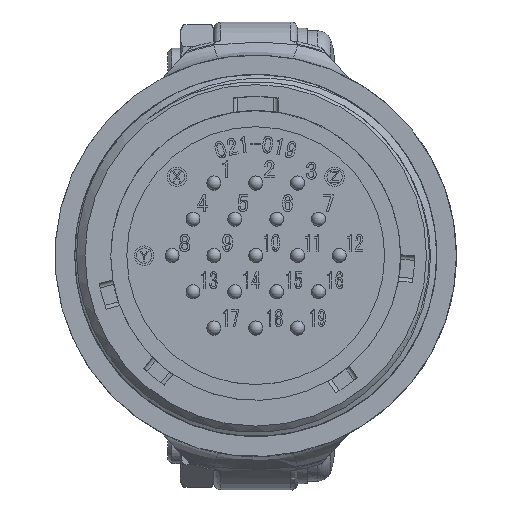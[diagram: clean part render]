
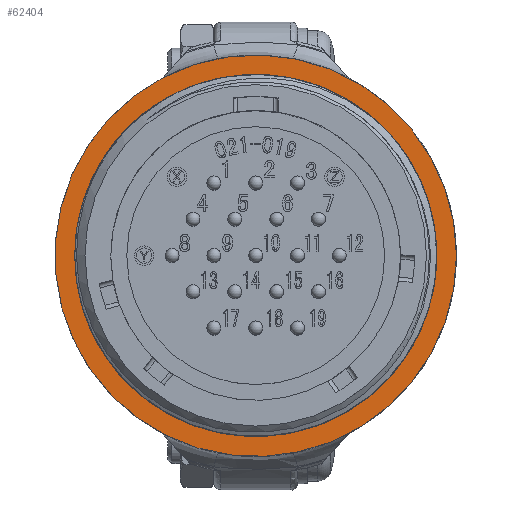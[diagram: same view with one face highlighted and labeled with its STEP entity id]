
A CAD part, top view. The second image highlights one B-rep face of the part: STEP entity #62404.
In plain terms, the highlighted planar face has unit normal (0, 0, 1).
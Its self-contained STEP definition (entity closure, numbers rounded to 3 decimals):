
#910 = VERTEX_POINT ( 'NONE', #79927 ) ;
#1603 = EDGE_LOOP ( 'NONE', ( #63825 ) ) ;
#2909 = DIRECTION ( 'NONE',  ( 0., 0., -1. ) ) ;
#5200 = DIRECTION ( 'NONE',  ( 0., 0., 1. ) ) ;
#7812 = EDGE_CURVE ( 'NONE', #44197, #44197, #54052, .T. ) ;
#13959 = CARTESIAN_POINT ( 'NONE',  ( -11.4, 0., -16.2 ) ) ;
#14477 = AXIS2_PLACEMENT_3D ( 'NONE', #72492, #2909, #47258 ) ;
#17681 = DIRECTION ( 'NONE',  ( 1., 0., 0. ) ) ;
#17768 = ORIENTED_EDGE ( 'NONE', *, *, #62162, .T. ) ;
#21010 = PLANE ( 'NONE',  #68003 ) ;
#28604 = FACE_OUTER_BOUND ( 'NONE', #77047, .T. ) ;
#37504 = FACE_BOUND ( 'NONE', #1603, .T. ) ;
#43437 = CARTESIAN_POINT ( 'NONE',  ( 0., 0., -16.2 ) ) ;
#44197 = VERTEX_POINT ( 'NONE', #13959 ) ;
#47258 = DIRECTION ( 'NONE',  ( -1., 0., 0. ) ) ;
#54052 = CIRCLE ( 'NONE', #14477, 11.4 ) ;
#58309 = CIRCLE ( 'NONE', #60583, 14.4 ) ;
#60583 = AXIS2_PLACEMENT_3D ( 'NONE', #43437, #5200, #17681 ) ;
#62162 = EDGE_CURVE ( 'NONE', #910, #910, #58309, .T. ) ;
#62404 = ADVANCED_FACE ( 'NONE', ( #28604, #37504 ), #21010, .T. ) ;
#63825 = ORIENTED_EDGE ( 'NONE', *, *, #7812, .T. ) ;
#68003 = AXIS2_PLACEMENT_3D ( 'NONE', #78124, #71152, #71420 ) ;
#71152 = DIRECTION ( 'NONE',  ( 0., 0., 1. ) ) ;
#71420 = DIRECTION ( 'NONE',  ( 1., 0., 0. ) ) ;
#72492 = CARTESIAN_POINT ( 'NONE',  ( 0., 0., -16.2 ) ) ;
#77047 = EDGE_LOOP ( 'NONE', ( #17768 ) ) ;
#78124 = CARTESIAN_POINT ( 'NONE',  ( 0., 0., -16.2 ) ) ;
#79927 = CARTESIAN_POINT ( 'NONE',  ( 14.4, 0., -16.2 ) ) ;
